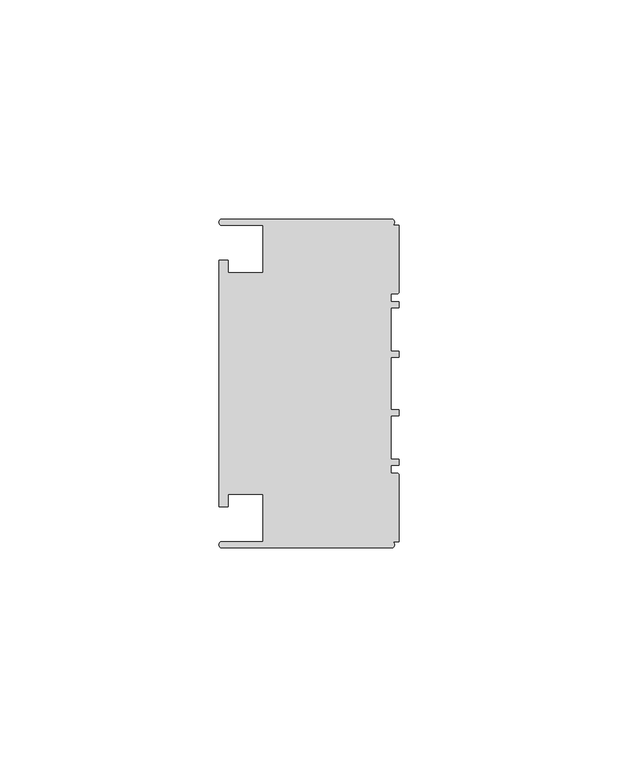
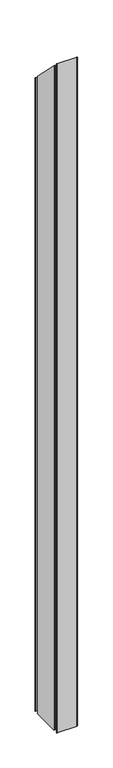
"""IFC4 building model written with IfcOpenShell, lengths in millimetres: member geometry, Прямоугольный импост : 3-AMG-2-Профиль 40Х75 Низ Л."""

import ifcopenshell
import ifcopenshell.guid

model = None  # the IFC model being written
_history = None  # IfcOwnerHistory: only IFC2X3 demands one
_inside = {}  # id of a spatial element -> (the spatial element, [elements in it])
_under = {}  # id of a project, library or spatial element -> (it, [spatial elements below it])
_declared = {}  # id of a project -> (the project, [libraries it declares])
_typed = {}  # id of a type object -> (the type object, [elements of that type])
_made_of = {}  # id of a material, layer set ... -> (it, [elements and type objects made of it])


def new_model(schema):
    """Start an empty IFC model of exactly this schema.

    Asked for "IFC4X3", IfcOpenShell would pick the latest addendum, in which some entities
    have other attributes; the version numbers below select the first issue.
    IFC2X3 requires an IfcOwnerHistory on every rooted entity: one is made here for all.
    """
    global model, _history
    if schema == "IFC4X3":
        model = ifcopenshell.file(schema_version=(4, 3, 0, 0))
    else:
        model = ifcopenshell.file(schema=schema)
    _inside.clear()
    _under.clear()
    _declared.clear()
    _typed.clear()
    _made_of.clear()
    _history = None
    if model.schema == "IFC2X3":
        org = make("IfcOrganization", Name="unknown")
        user = make(
            "IfcPersonAndOrganization",
            ThePerson=make("IfcPerson", FamilyName="unknown"),
            TheOrganization=org,
        )
        app = make(
            "IfcApplication",
            ApplicationDeveloper=org,
            Version="unknown",
            ApplicationFullName="unknown",
            ApplicationIdentifier="unknown",
        )
        _history = make(
            "IfcOwnerHistory",
            OwningUser=user,
            OwningApplication=app,
            ChangeAction="ADDED",
            CreationDate=0,
        )
    return model


def make(cls, **values):
    """One entity of the class cls with the attributes given. An attribute that is None is left unset."""
    return model.create_entity(
        cls, **{name: value for name, value in values.items() if value is not None}
    )


def rooted(cls, **values):
    """An entity with a GlobalId (a new one), such as an element, a storey or a relation."""
    return make(cls, GlobalId=ifcopenshell.guid.new(), OwnerHistory=_history, **values)


def si_unit(unit_type, name, prefix=None):
    """IfcSIUnit, for example si_unit("LENGTHUNIT", "METRE", prefix="MILLI")."""
    return make("IfcSIUnit", UnitType=unit_type, Prefix=prefix, Name=name)


def assignment(units):
    """IfcUnitAssignment: the units of a project."""
    return None if units is None else make("IfcUnitAssignment", Units=units)


def point(xyz):
    """IfcCartesianPoint."""
    return None if xyz is None else make("IfcCartesianPoint", Coordinates=xyz)


def direction(xyz):
    """IfcDirection."""
    return None if xyz is None else make("IfcDirection", DirectionRatios=xyz)


def frame(location, z_axis=None, x_axis=None):
    """IfcAxis2Placement3D, a coordinate frame: its origin and axes. An axis left out is left unset."""
    return make(
        "IfcAxis2Placement3D",
        Location=point(location),
        Axis=direction(z_axis),
        RefDirection=direction(x_axis),
    )


def origin():
    """The frame at (0, 0, 0) with its axes left unset."""
    return frame((0.0, 0.0, 0.0))


def place(relative_to, where):
    """IfcLocalPlacement: puts the frame where relative to a parent placement (None: the world)."""
    return make(
        "IfcLocalPlacement", PlacementRelTo=relative_to, RelativePlacement=where
    )


def context(
    kind, dimensions, precision=None, world=None, true_north=None, identifier=None
):
    """IfcGeometricRepresentationContext, for example the 3D "Model" context."""
    return make(
        "IfcGeometricRepresentationContext",
        ContextIdentifier=identifier,
        ContextType=kind,
        CoordinateSpaceDimension=dimensions,
        Precision=precision,
        WorldCoordinateSystem=world,
        TrueNorth=true_north,
    )


def project(units=None, contexts=None):
    """IfcProject with its units and contexts."""
    return rooted(
        "IfcProject",
        Name="project",
        RepresentationContexts=contexts,
        UnitsInContext=assignment(units),
    )


def spatial(cls, under=None, at=None, **own):
    """A site, building, storey or space (cls), placed at a placement, below another one or the project."""
    s = rooted(cls, ObjectPlacement=at, **own)
    if under is not None:
        _under.setdefault(under.id(), (under, []))[1].append(s)
    return s


def circle_curve(where, radius):
    """IfcCircle in the frame where."""
    return make("IfcCircle", Position=where, Radius=radius)


def ellipse_curve(where, semi_axis1, semi_axis2):
    """IfcEllipse in the frame where."""
    return make(
        "IfcEllipse", Position=where, SemiAxis1=semi_axis1, SemiAxis2=semi_axis2
    )


def shape(context_of_items, identifier, shape_type, items):
    """IfcShapeRepresentation: the items that make up one representation, for example the "Body"."""
    return make(
        "IfcShapeRepresentation",
        ContextOfItems=context_of_items,
        RepresentationIdentifier=identifier,
        RepresentationType=shape_type,
        Items=items,
    )


def source(mapping_origin, context_of_items, identifier, shape_type, items):
    """IfcRepresentationMap: a shape defined once, which mapped items show again and again."""
    return make(
        "IfcRepresentationMap",
        MappingOrigin=mapping_origin,
        MappedRepresentation=shape(context_of_items, identifier, shape_type, items),
    )


def transform(
    local_origin,
    x_axis=None,
    y_axis=None,
    z_axis=None,
    scale=None,
    scale2=None,
    scale3=None,
    uniform=True,
):
    """IfcCartesianTransformationOperator3D, or its non-uniform kind. x_axis, y_axis, z_axis: its Axis1, 2, 3."""
    if uniform:
        return make(
            "IfcCartesianTransformationOperator3D",
            Axis1=direction(x_axis),
            Axis2=direction(y_axis),
            LocalOrigin=point(local_origin),
            Scale=scale,
            Axis3=direction(z_axis),
        )
    return make(
        "IfcCartesianTransformationOperator3DnonUniform",
        Axis1=direction(x_axis),
        Axis2=direction(y_axis),
        LocalOrigin=point(local_origin),
        Scale=scale,
        Axis3=direction(z_axis),
        Scale2=scale2,
        Scale3=scale3,
    )


def mapped(mapping_source, mapping_target):
    """IfcMappedItem: shows the shape of a source again, moved by a transform."""
    return make(
        "IfcMappedItem", MappingSource=mapping_source, MappingTarget=mapping_target
    )


def made_of(thing, what):
    """Note that an element or type object is made of a material, layer set ...; save() writes the relation."""
    if what is not None:
        _made_of.setdefault(what.id(), (what, []))[1].append(thing)
    return thing


def element(
    cls,
    number,
    at=None,
    inside=None,
    cuts=None,
    type_object=None,
    material=None,
    context=None,
    identifier="Body",
    shape_type=None,
    held_by="IfcProductDefinitionShape",
    body=None,
    shapes=None,
    **own,
):
    """One element of the class cls, such as IfcWall. Its Tag is "e" and its number.

    at: its placement. inside: the storey or other place that contains it. cuts: it is an
    opening in that element (IfcRelVoidsElement). A single representation is given by context,
    identifier, shape_type and body (its items); several are given by shapes. held_by: the class
    of the entity that holds the representations. save() writes the other relations.
    """
    e = rooted(cls, Tag="e%d" % number, ObjectPlacement=at, **own)
    if body is not None:
        shapes = [shape(context, identifier, shape_type, body)]
    if shapes is not None:
        e.Representation = make(held_by, Representations=shapes)
    if inside is not None:
        _inside.setdefault(inside.id(), (inside, []))[1].append(e)
    if cuts is not None:
        rooted(
            "IfcRelVoidsElement", RelatingBuildingElement=cuts, RelatedOpeningElement=e
        )
    if type_object is not None:
        _typed.setdefault(type_object.id(), (type_object, []))[1].append(e)
    return made_of(e, material)


def aggregate(whole, parts):
    """IfcRelAggregates: a whole, such as a stair, and the parts it consists of."""
    return rooted("IfcRelAggregates", RelatingObject=whole, RelatedObjects=parts)


def save(model, path):
    """Write the relations noted so far, then the file.

    IfcRelAggregates (storeys below a building ...), IfcRelContainedInSpatialStructure (elements
    in a storey), IfcRelDefinesByType, IfcRelAssociatesMaterial and IfcRelDeclares: one each for
    every whole, place, type object, material and project.
    """
    for whole, parts in _under.values():
        aggregate(whole, parts)
    for where, things in _inside.values():
        rooted(
            "IfcRelContainedInSpatialStructure",
            RelatedElements=things,
            RelatingStructure=where,
        )
    for kind, things in _typed.values():
        rooted("IfcRelDefinesByType", RelatedObjects=things, RelatingType=kind)
    for what, things in _made_of.values():
        rooted("IfcRelAssociatesMaterial", RelatedObjects=things, RelatingMaterial=what)
    for by, libraries in _declared.values():
        rooted("IfcRelDeclares", RelatingContext=by, RelatedDefinitions=libraries)
    model.write(path)


def plane_surface(at):
    """IfcPlane: the flat surface through the origin of the frame at, square to its z axis."""
    return make("IfcPlane", Position=at)


def cylinder_surface(at, radius):
    """IfcCylindricalSurface: all points at the distance radius from the z axis of the frame at."""
    return make("IfcCylindricalSurface", Position=at, Radius=radius)


def advanced_brep(points, edges, surfaces, faces):
    """IfcAdvancedBrep: a solid bounded by faces that lie on surfaces and meet in shared edges.

    An edge is (start, end): straight between two places in points (the first is 0);
    or (start, end, curve); or (start, end, curve, False) where it runs against its curve.
    A face is (place in surfaces, loops), or (place, loops, False) where it looks against
    its surface's normal. A loop lists edges by number (the first is 1), with a minus sign
    where the edge is run from its end to its start. The first loop is the outer one.
    """
    corners = [point(p) for p in points]
    vertices = [make("IfcVertexPoint", VertexGeometry=c) for c in corners]
    made = []
    for start, end, *more in edges:
        made.append(
            make(
                "IfcEdgeCurve",
                EdgeStart=vertices[start],
                EdgeEnd=vertices[end],
                EdgeGeometry=more[0] if more else make("IfcPolyline", Points=[corners[start], corners[end]]),
                SameSense=more[1] if len(more) > 1 else True,
            )
        )
    hull = []
    for where, loops, *sense in faces:
        bounds = []
        for j, loop in enumerate(loops):
            ring = [make("IfcOrientedEdge", EdgeElement=made[abs(k) - 1], Orientation=k > 0) for k in loop]
            bounds.append(
                make(
                    "IfcFaceOuterBound" if j == 0 else "IfcFaceBound",
                    Bound=make("IfcEdgeLoop", EdgeList=ring),
                    Orientation=True,
                )
            )
        hull.append(make("IfcAdvancedFace", Bounds=bounds, FaceSurface=surfaces[where], SameSense=sense[0] if sense else True))
    return make("IfcAdvancedBrep", Outer=make("IfcClosedShell", CfsFaces=hull))


def member_7e8b3f85(model_context):
    return source(origin(), model_context, "Body", "AdvancedBrep", [
        advanced_brep(
        [(-1.7, 37.5, -1344.5001349), (-1.7, 36.1, -1344.5001349), (0.0, 36.1, -1344.5001349), (0.0, 20.95, -1344.5001349), (-0.5, 20.45, -1344.5001349), (-1.8, 20.45, -1344.5001349), (-1.8, 18.65, -1344.5001349), (0.0, 18.65, -1344.5001349), (0.0, 17.25, -1344.5001349), (-1.8, 17.25, -1344.5001349), (-1.8, 7.4, -1344.5001349), (0.0, 7.4, -1344.5001349), (0.0, 6.0, -1344.5001349), (-1.8, 6.0, -1344.5001349), (-1.8, -6.0, -1344.5001349), (0.0, -6.0, -1344.5001349), (0.0, -7.4, -1344.5001349), (-1.8, -7.4, -1344.5001349), (-1.8, -17.25, -1344.5001349), (0.0, -17.25, -1344.5001349), (0.0, -18.65, -1344.5001349), (-1.8, -18.65, -1344.5001349), (-1.8, -20.45, -1344.5001349), (-0.5, -20.45, -1344.5001349), (0.0, -20.95, -1344.5001349), (0.0, -36.1, -1344.5001349), (-1.7, -36.1, -1344.5001349), (-1.7, -37.5, -1344.5001349), (-40.4, -37.5, -1344.5001349), (-40.4, -36.1, -1344.5001349), (-31.0, -36.1, -1344.5001349), (-31.0, -25.25, -1344.5001349), (-39.0, -25.25, -1344.5001349), (-39.0, -28.1, -1344.5001349), (-41.1, -28.1, -1344.5001349), (-41.1, 28.1, -1344.5001349), (-39.0, 28.1, -1344.5001349), (-39.0, 25.25, -1344.5001349), (-31.0, 25.25, -1344.5001349), (-31.0, 36.1, -1344.5001349), (-40.4, 36.1, -1344.5001349), (-40.4, 37.5, -1344.5001349), (-40.4, 37.5, -37.5), (-1.7, 37.5, -37.5), (-40.4, 36.1, -36.1), (-31.0, 36.1, -36.1), (-31.0, 25.25, -25.25), (-39.0, 25.25, -25.25), (-39.0, 28.1, -28.1), (-41.1, 28.1, -28.1), (-41.1, -28.1, 28.1), (-39.0, -28.1, 28.1), (-39.0, -25.25, 25.25), (-31.0, -25.25, 25.25), (-31.0, -36.1, 36.1), (-40.4, -36.1, 36.1), (-40.4, -37.5, 37.5), (-1.7, -37.5, 37.5), (-1.7, -36.1, 36.1), (0.0, -36.1, 36.1), (0.0, -20.95, 20.95), (-0.5, -20.45, 20.45), (-1.8, -20.45, 20.45), (-1.8, -18.65, 18.65), (0.0, -18.65, 18.65), (0.0, -17.25, 17.25), (-1.8, -17.25, 17.25), (-1.8, -7.4, 7.4), (0.0, -7.4, 7.4), (0.0, -6.0, 6.0), (-1.8, -6.0, 6.0), (-1.8, 6.0, -6.0), (0.0, 6.0, -6.0), (0.0, 7.4, -7.4), (-1.8, 7.4, -7.4), (-1.8, 17.25, -17.25), (0.0, 17.25, -17.25), (0.0, 18.65, -18.65), (-1.8, 18.65, -18.65), (-1.8, 20.45, -20.45), (-0.5, 20.45, -20.45), (0.0, 20.95, -20.95), (0.0, 36.1, -36.1), (-1.7, 36.1, -36.1)],
        [
            (0, 1, circle_curve(frame((-1.7, 36.8, -1344.5001349), z_axis=(0.0, 0.0, -1.0), x_axis=(-1.0, 0.0, 0.0)), 0.7)),
            (1, 2),
            (2, 3),
            (3, 4, circle_curve(frame((-0.5, 20.95, -1344.5001349), z_axis=(0.0, 0.0, -1.0), x_axis=(1.0, 0.0, 0.0)), 0.5)),
            (4, 5),
            (5, 6),
            (6, 7),
            (7, 8),
            (8, 9),
            (9, 10),
            (10, 11),
            (11, 12),
            (12, 13),
            (13, 14),
            (14, 15),
            (15, 16),
            (16, 17),
            (17, 18),
            (18, 19),
            (19, 20),
            (20, 21),
            (21, 22),
            (22, 23),
            (23, 24, circle_curve(frame((-0.5, -20.95, -1344.5001349), z_axis=(0.0, 0.0, -1.0), x_axis=(0.0, 1.0, 0.0)), 0.5)),
            (24, 25),
            (25, 26),
            (26, 27, circle_curve(frame((-1.7, -36.8, -1344.5001349), z_axis=(0.0, 0.0, -1.0), x_axis=(-1.0, 0.0, 0.0)), 0.7)),
            (27, 28),
            (28, 29, circle_curve(frame((-40.4, -36.8, -1344.5001349), z_axis=(0.0, 0.0, -1.0), x_axis=(-1.0, 0.0, 0.0)), 0.7)),
            (29, 30),
            (30, 31),
            (31, 32),
            (32, 33),
            (33, 34),
            (34, 35),
            (35, 36),
            (36, 37),
            (37, 38),
            (38, 39),
            (39, 40),
            (40, 41, circle_curve(frame((-40.4, 36.8, -1344.5001349), z_axis=(0.0, 0.0, -1.0), x_axis=(-1.0, 0.0, 0.0)), 0.7)),
            (41, 0),
            (42, 43),
            (43, 0),
            (41, 42),
            (44, 42, ellipse_curve(frame((-40.4, 36.8, -36.8), z_axis=(0.0, -0.7071067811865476, -0.7071067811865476), x_axis=(0.0, -0.7071067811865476, 0.7071067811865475)), 0.9899495, 0.7)),
            (40, 44),
            (45, 44),
            (39, 45),
            (46, 45),
            (38, 46),
            (47, 46),
            (37, 47),
            (48, 47),
            (36, 48),
            (49, 48),
            (35, 49),
            (50, 49),
            (34, 50),
            (51, 50),
            (33, 51),
            (52, 51),
            (32, 52),
            (53, 52),
            (31, 53),
            (54, 53),
            (30, 54),
            (55, 54),
            (29, 55),
            (56, 55, ellipse_curve(frame((-40.4, -36.8, 36.8), z_axis=(0.0, -0.7071067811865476, -0.7071067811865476), x_axis=(0.0, -0.7071067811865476, 0.7071067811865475)), 0.9899495, 0.7)),
            (28, 56),
            (57, 56),
            (27, 57),
            (58, 57, ellipse_curve(frame((-1.7, -36.8, 36.8), z_axis=(0.0, -0.7071067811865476, -0.7071067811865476), x_axis=(0.0, -0.7071067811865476, 0.7071067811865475)), 0.9899495, 0.7)),
            (26, 58),
            (59, 58),
            (25, 59),
            (60, 59),
            (24, 60),
            (61, 60, ellipse_curve(frame((-0.5, -20.95, 20.95), z_axis=(0.0, -0.7071067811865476, -0.7071067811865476), x_axis=(0.0, -0.7071067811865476, 0.7071067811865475)), 0.7071068, 0.5)),
            (23, 61),
            (62, 61),
            (22, 62),
            (63, 62),
            (21, 63),
            (64, 63),
            (20, 64),
            (65, 64),
            (19, 65),
            (66, 65),
            (18, 66),
            (67, 66),
            (17, 67),
            (68, 67),
            (16, 68),
            (69, 68),
            (15, 69),
            (70, 69),
            (14, 70),
            (71, 70),
            (13, 71),
            (72, 71),
            (12, 72),
            (73, 72),
            (11, 73),
            (74, 73),
            (10, 74),
            (75, 74),
            (9, 75),
            (76, 75),
            (8, 76),
            (77, 76),
            (7, 77),
            (78, 77),
            (6, 78),
            (79, 78),
            (5, 79),
            (80, 79),
            (4, 80),
            (81, 80, ellipse_curve(frame((-0.5, 20.95, -20.95), z_axis=(0.0, -0.7071067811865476, -0.7071067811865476), x_axis=(0.0, -0.7071067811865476, 0.7071067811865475)), 0.7071068, 0.5)),
            (3, 81),
            (82, 81),
            (2, 82),
            (83, 82),
            (1, 83),
            (43, 83, ellipse_curve(frame((-1.7, 36.8, -36.8), z_axis=(0.0, -0.7071067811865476, -0.7071067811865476), x_axis=(0.0, -0.7071067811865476, 0.7071067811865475)), 0.9899495, 0.7)),
        ],
        [
            plane_surface(frame((0.0, -55.1674723, -1344.5001349), z_axis=(0.0, 0.0, -1.0), x_axis=(-1.0, 0.0, 0.0))),
            plane_surface(frame((-1.7, 37.5, 0.0), z_axis=(0.0, 1.0, 0.0), x_axis=(0.0, 0.0, -1.0))),
            cylinder_surface(frame((-40.4, 36.8, 0.0), z_axis=(0.0, 0.0, 1.0), x_axis=(-1.0, 0.0, 0.0)), 0.7),
            plane_surface(frame((-40.4, 36.1, 0.0), z_axis=(0.0, -1.0, 0.0), x_axis=(0.0, 0.0, -1.0))),
            plane_surface(frame((-31.0, 36.1, 0.0), z_axis=(-1.0, 0.0, 0.0), x_axis=(0.0, 0.0, -1.0))),
            plane_surface(frame((-31.0, 25.25, 0.0), z_axis=(0.0, 1.0, 0.0), x_axis=(0.0, 0.0, -1.0))),
            plane_surface(frame((-39.0, 25.25, 0.0), z_axis=(1.0, 0.0, 0.0), x_axis=(0.0, 0.0, -1.0))),
            plane_surface(frame((-39.0, 28.1, 0.0), z_axis=(0.0, 1.0, 0.0), x_axis=(0.0, 0.0, -1.0))),
            plane_surface(frame((-41.1, 28.1, 0.0), z_axis=(-1.0, 0.0, 0.0), x_axis=(0.0, 0.0, -1.0))),
            plane_surface(frame((-41.1, -28.1, 0.0), z_axis=(0.0, -1.0, 0.0), x_axis=(0.0, 0.0, -1.0))),
            plane_surface(frame((-39.0, -28.1, 0.0), z_axis=(1.0, 0.0, 0.0), x_axis=(0.0, 0.0, -1.0))),
            plane_surface(frame((-39.0, -25.25, 0.0), z_axis=(0.0, -1.0, 0.0), x_axis=(0.0, 0.0, -1.0))),
            plane_surface(frame((-31.0, -25.25, 0.0), z_axis=(-1.0, 0.0, 0.0), x_axis=(0.0, 0.0, -1.0))),
            plane_surface(frame((-31.0, -36.1, 0.0), z_axis=(0.0, 1.0, 0.0), x_axis=(0.0, 0.0, -1.0))),
            cylinder_surface(frame((-40.4, -36.8, 0.0), z_axis=(0.0, 0.0, 1.0), x_axis=(-1.0, 0.0, 0.0)), 0.7),
            plane_surface(frame((-40.4, -37.5, 0.0), z_axis=(0.0, -1.0, 0.0), x_axis=(0.0, 0.0, -1.0))),
            cylinder_surface(frame((-1.7, -36.8, 0.0), z_axis=(0.0, 0.0, 1.0), x_axis=(-1.0, 0.0, 0.0)), 0.7),
            plane_surface(frame((-1.7, -36.1, 0.0), z_axis=(0.0, -1.0, 0.0), x_axis=(0.0, 0.0, -1.0))),
            plane_surface(frame((0.0, -36.1, 0.0), z_axis=(1.0, 0.0, 0.0), x_axis=(0.0, 0.0, -1.0))),
            cylinder_surface(frame((-0.5, -20.95, 0.0), z_axis=(0.0, 0.0, 1.0), x_axis=(0.0, 1.0, 0.0)), 0.5),
            plane_surface(frame((-0.5, -20.45, 0.0), z_axis=(0.0, 1.0, 0.0), x_axis=(0.0, 0.0, -1.0))),
            plane_surface(frame((-1.8, -20.45, 0.0), z_axis=(1.0, 0.0, 0.0), x_axis=(0.0, 0.0, -1.0))),
            plane_surface(frame((-1.8, -18.65, 0.0), z_axis=(0.0, -1.0, 0.0), x_axis=(0.0, 0.0, -1.0))),
            plane_surface(frame((0.0, -18.65, 0.0), z_axis=(1.0, 0.0, 0.0), x_axis=(0.0, 0.0, -1.0))),
            plane_surface(frame((0.0, -17.25, 0.0), z_axis=(0.0, 1.0, 0.0), x_axis=(0.0, 0.0, -1.0))),
            plane_surface(frame((-1.8, -17.25, 0.0), z_axis=(1.0, 0.0, 0.0), x_axis=(0.0, 0.0, -1.0))),
            plane_surface(frame((-1.8, -7.4, 0.0), z_axis=(0.0, -1.0, 0.0), x_axis=(0.0, 0.0, -1.0))),
            plane_surface(frame((0.0, -7.4, 0.0), z_axis=(1.0, 0.0, 0.0), x_axis=(0.0, 0.0, -1.0))),
            plane_surface(frame((0.0, -6.0, 0.0), z_axis=(0.0, 1.0, 0.0), x_axis=(0.0, 0.0, -1.0))),
            plane_surface(frame((-1.8, -6.0, 0.0), z_axis=(1.0, 0.0, 0.0), x_axis=(0.0, 0.0, -1.0))),
            plane_surface(frame((-1.8, 6.0, 0.0), z_axis=(0.0, -1.0, 0.0), x_axis=(0.0, 0.0, -1.0))),
            plane_surface(frame((0.0, 6.0, 0.0), z_axis=(1.0, 0.0, 0.0), x_axis=(0.0, 0.0, -1.0))),
            plane_surface(frame((0.0, 7.4, 0.0), z_axis=(0.0, 1.0, 0.0), x_axis=(0.0, 0.0, -1.0))),
            plane_surface(frame((-1.8, 7.4, 0.0), z_axis=(1.0, 0.0, 0.0), x_axis=(0.0, 0.0, -1.0))),
            plane_surface(frame((-1.8, 17.25, 0.0), z_axis=(0.0, -1.0, 0.0), x_axis=(0.0, 0.0, -1.0))),
            plane_surface(frame((0.0, 17.25, 0.0), z_axis=(1.0, 0.0, 0.0), x_axis=(0.0, 0.0, -1.0))),
            plane_surface(frame((0.0, 18.65, 0.0), z_axis=(0.0, 1.0, 0.0), x_axis=(0.0, 0.0, -1.0))),
            plane_surface(frame((-1.8, 18.65, 0.0), z_axis=(1.0, 0.0, 0.0), x_axis=(0.0, 0.0, -1.0))),
            plane_surface(frame((-1.8, 20.45, 0.0), z_axis=(0.0, -1.0, 0.0), x_axis=(0.0, 0.0, -1.0))),
            cylinder_surface(frame((-0.5, 20.95, 0.0), z_axis=(0.0, 0.0, 1.0), x_axis=(1.0, 0.0, 0.0)), 0.5),
            plane_surface(frame((0.0, 20.95, 0.0), z_axis=(1.0, 0.0, 0.0), x_axis=(0.0, 0.0, -1.0))),
            plane_surface(frame((0.0, 36.1, 0.0), z_axis=(0.0, 1.0, 0.0), x_axis=(0.0, 0.0, -1.0))),
            cylinder_surface(frame((-1.7, 36.8, 0.0), z_axis=(0.0, 0.0, 1.0), x_axis=(-1.0, 0.0, 0.0)), 0.7),
            plane_surface(frame((-304.8, 0.0, 0.0), z_axis=(0.0, 0.7071067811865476, 0.7071067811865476), x_axis=(0.0, 0.7071067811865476, -0.7071067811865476))),
        ],
        [
            (0, [[1, 2, 3, 4, 5, 6, 7, 8, 9, 10, 11, 12, 13, 14, 15, 16, 17, 18, 19, 20, 21, 22, 23, 24, 25, 26, 27, 28, 29, 30, 31, 32, 33, 34, 35, 36, 37, 38, 39, 40, 41, 42]]),
            (1, [[43, 44, -42, 45]]),
            (2, [[46, -45, -41, 47]]),
            (3, [[48, -47, -40, 49]]),
            (4, [[50, -49, -39, 51]]),
            (5, [[52, -51, -38, 53]]),
            (6, [[54, -53, -37, 55]]),
            (7, [[56, -55, -36, 57]]),
            (8, [[58, -57, -35, 59]]),
            (9, [[60, -59, -34, 61]]),
            (10, [[62, -61, -33, 63]]),
            (11, [[64, -63, -32, 65]]),
            (12, [[66, -65, -31, 67]]),
            (13, [[68, -67, -30, 69]]),
            (14, [[70, -69, -29, 71]]),
            (15, [[72, -71, -28, 73]]),
            (16, [[74, -73, -27, 75]]),
            (17, [[76, -75, -26, 77]]),
            (18, [[78, -77, -25, 79]]),
            (19, [[80, -79, -24, 81]]),
            (20, [[82, -81, -23, 83]]),
            (21, [[84, -83, -22, 85]]),
            (22, [[86, -85, -21, 87]]),
            (23, [[88, -87, -20, 89]]),
            (24, [[90, -89, -19, 91]]),
            (25, [[92, -91, -18, 93]]),
            (26, [[94, -93, -17, 95]]),
            (27, [[96, -95, -16, 97]]),
            (28, [[98, -97, -15, 99]]),
            (29, [[100, -99, -14, 101]]),
            (30, [[102, -101, -13, 103]]),
            (31, [[104, -103, -12, 105]]),
            (32, [[106, -105, -11, 107]]),
            (33, [[108, -107, -10, 109]]),
            (34, [[110, -109, -9, 111]]),
            (35, [[112, -111, -8, 113]]),
            (36, [[114, -113, -7, 115]]),
            (37, [[116, -115, -6, 117]]),
            (38, [[118, -117, -5, 119]]),
            (39, [[120, -119, -4, 121]]),
            (40, [[122, -121, -3, 123]]),
            (41, [[124, -123, -2, 125]]),
            (42, [[126, -125, -1, -44]]),
            (43, [[-43, -46, -48, -50, -52, -54, -56, -58, -60, -62, -64, -66, -68, -70, -72, -74, -76, -78, -80, -82, -84, -86, -88, -90, -92, -94, -96, -98, -100, -102, -104, -106, -108, -110, -112, -114, -116, -118, -120, -122, -124, -126]]),
        ],
    ),
    ])


if __name__ == "__main__":
    model = new_model("IFC4")
    model_context = context("Model", 3, world=origin())
    ifc_project = project(units=[si_unit("LENGTHUNIT", "METRE", prefix="MILLI")], contexts=[model_context])
    site = spatial("IfcSite", under=ifc_project)
    building = spatial("IfcBuilding", under=site)
    placement = place(None, origin())
    member_shape = member_7e8b3f85(model_context)
    element("IfcMember", 1, ObjectType="Прямоугольный импост : 3-AMG-2-Профиль 40Х75 Низ Л", at=placement, inside=building, context=model_context, shape_type="MappedRepresentation", body=[
        mapped(member_shape, transform((0.0, 0.0, 0.0), x_axis=(1.0, 0.0, 0.0), y_axis=(0.0, 1.0, 0.0), z_axis=(0.0, 0.0, 1.0))),
    ])
    save(model, "model.ifc")
